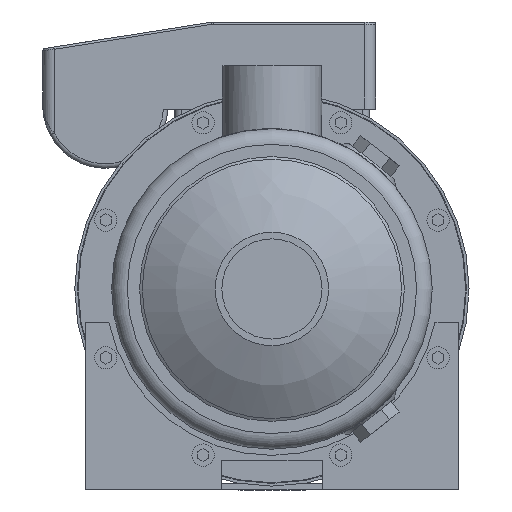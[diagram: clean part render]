
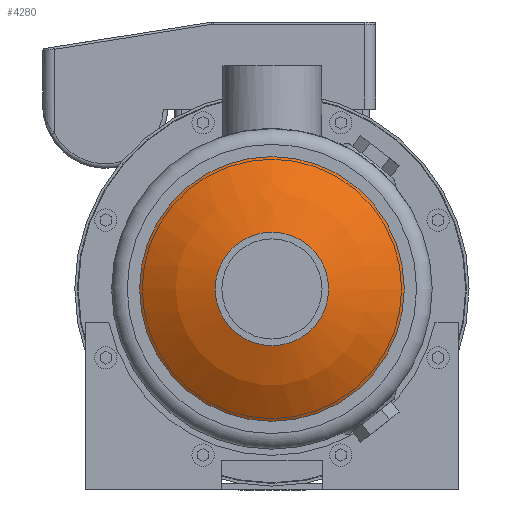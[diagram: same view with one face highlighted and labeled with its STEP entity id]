
A CAD part, left-side view. The second image highlights one B-rep face of the part: STEP entity #4280.
In plain terms, the highlighted spherical face has radius 100 mm.
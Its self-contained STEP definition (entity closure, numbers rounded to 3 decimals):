
#59=SPHERICAL_SURFACE('',#5681,100.);
#969=ORIENTED_EDGE('',*,*,#2140,.T.);
#970=ORIENTED_EDGE('',*,*,#2139,.F.);
#2139=EDGE_CURVE('',#2729,#2729,#3131,.T.);
#2140=EDGE_CURVE('',#2730,#2730,#3132,.T.);
#2729=VERTEX_POINT('',#7616);
#2730=VERTEX_POINT('',#7619);
#3131=CIRCLE('',#5680,25.4);
#3132=CIRCLE('',#5682,59.25);
#3336=EDGE_LOOP('',(#969));
#3337=EDGE_LOOP('',(#970));
#3731=FACE_BOUND('',#3336,.T.);
#3732=FACE_BOUND('',#3337,.T.);
#4280=ADVANCED_FACE('',(#3731,#3732),#59,.T.);
#5680=AXIS2_PLACEMENT_3D('',#7615,#6209,#6210);
#5681=AXIS2_PLACEMENT_3D('',#7617,#6211,#6212);
#5682=AXIS2_PLACEMENT_3D('',#7618,#6213,#6214);
#6209=DIRECTION('',(-1.,0.,0.));
#6210=DIRECTION('',(0.,0.,1.));
#6211=DIRECTION('',(-1.,0.,0.));
#6212=DIRECTION('',(0.,0.,1.));
#6213=DIRECTION('',(-1.,0.,0.));
#6214=DIRECTION('',(0.,0.,1.));
#7615=CARTESIAN_POINT('',(-82.02,0.,0.));
#7616=CARTESIAN_POINT('',(-82.02,0.,25.4));
#7617=CARTESIAN_POINT('',(14.7,0.,0.));
#7618=CARTESIAN_POINT('',(-65.857,0.,0.));
#7619=CARTESIAN_POINT('',(-65.857,0.,59.25));
